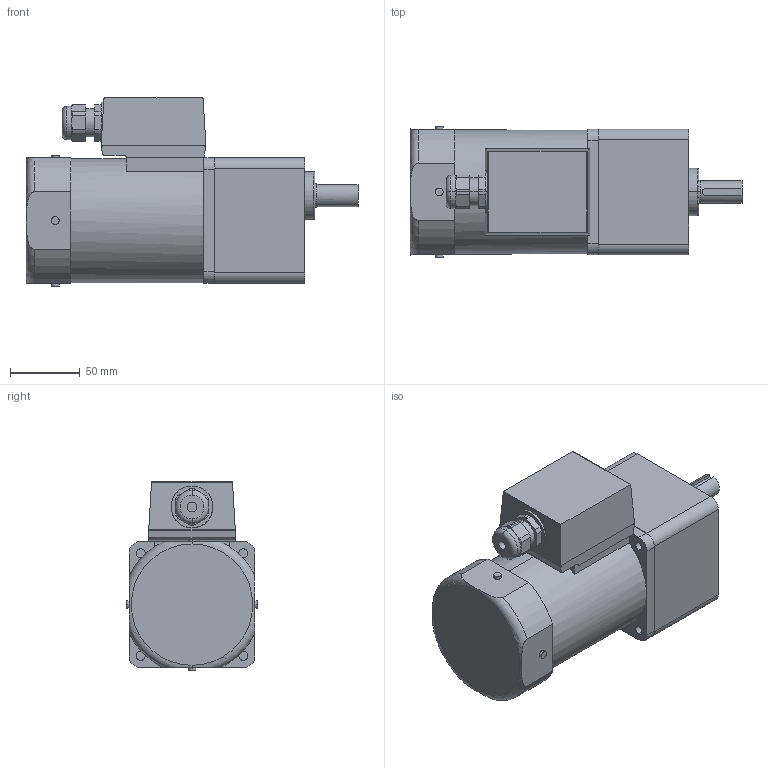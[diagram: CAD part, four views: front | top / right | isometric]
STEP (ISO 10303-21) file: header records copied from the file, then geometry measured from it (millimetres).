
FILE_DESCRIPTION(('starvars output'),'2;1');
FILE_NAME('5RK90GE-CW3TE _ 5GE7.5SA.stp','13:55:31 2015/05/11',( 'Thomas Industrial Network Germany GmbH'),( 'Thomas Industrial Network Germany GmbH'),'unknown preprocess','ACIS' ,'unknown authorization');
FILE_SCHEMA(('AUTOMOTIVE_DESIGN_CC2 {UNKNOWN IMPLEMENTATION LEVEL}'));
Length unit declared in the file: millimetre
Products named in the file (1): PRODUCT_ID_695
Bounding box: 238 x 94 x 135 mm (x, y, z)
Volume: 1610523.7 mm3; surface area: 106523.5 mm2
Topology: 1 solids, 1 shells, 190 faces, 463 edges, 298 vertices
Faces by surface type: plane 88, cylinder 84, torus 14, cone 4
Entity records: 6795 total; most frequent: CARTESIAN_POINT 1199, ORIENTED_EDGE 922, DIRECTION 714, EDGE_CURVE 461, VERTEX_POINT 298, AXIS2_PLACEMENT_3D 239, VECTOR 236, LINE 236
